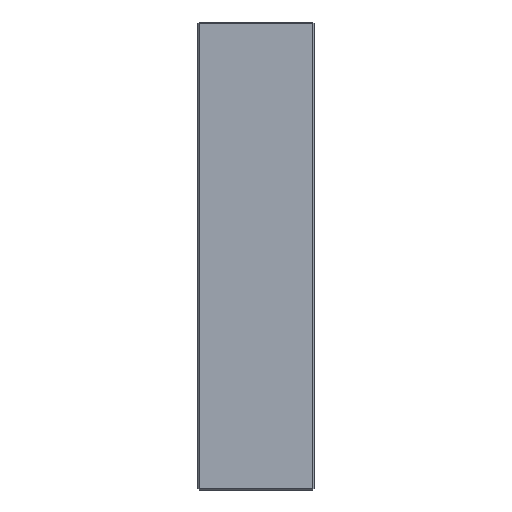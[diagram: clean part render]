
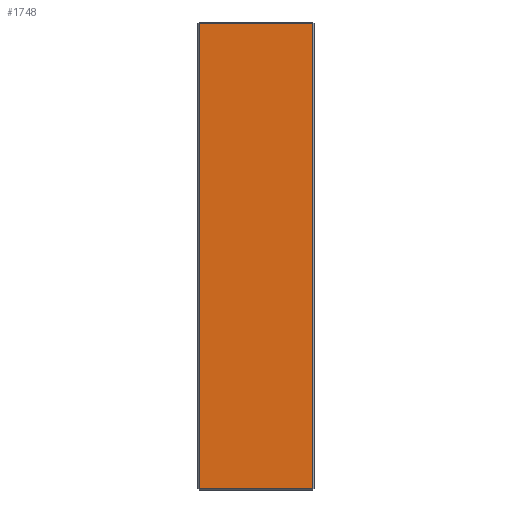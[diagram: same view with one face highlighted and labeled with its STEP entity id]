
A CAD part, left-side view. The second image highlights one B-rep face of the part: STEP entity #1748.
In plain terms, the highlighted planar face has unit normal (-1, 0, 0).
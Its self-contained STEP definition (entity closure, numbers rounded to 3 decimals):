
#29 = VECTOR ( 'NONE', #1095, 1000. ) ;
#83 = PLANE ( 'NONE',  #427 ) ;
#95 = CARTESIAN_POINT ( 'NONE',  ( -173., 86., 173. ) ) ;
#113 = DIRECTION ( 'NONE',  ( 1., 0., 0. ) ) ;
#116 = DIRECTION ( 'NONE',  ( 0., 0., -1. ) ) ;
#145 = LINE ( 'NONE', #217, #256 ) ;
#164 = ORIENTED_EDGE ( 'NONE', *, *, #448, .T. ) ;
#184 = VECTOR ( 'NONE', #965, 1000. ) ;
#217 = CARTESIAN_POINT ( 'NONE',  ( -173., 86., -172. ) ) ;
#256 = VECTOR ( 'NONE', #348, 1000. ) ;
#348 = DIRECTION ( 'NONE',  ( 0., -1., 0. ) ) ;
#364 = LINE ( 'NONE', #628, #184 ) ;
#427 = AXIS2_PLACEMENT_3D ( 'NONE', #95, #113, #116 ) ;
#430 = ORIENTED_EDGE ( 'NONE', *, *, #1557, .T. ) ;
#448 = EDGE_CURVE ( 'NONE', #806, #1682, #145, .T. ) ;
#628 = CARTESIAN_POINT ( 'NONE',  ( -173., 85., 173. ) ) ;
#678 = ORIENTED_EDGE ( 'NONE', *, *, #1694, .T. ) ;
#762 = VERTEX_POINT ( 'NONE', #1823 ) ;
#806 = VERTEX_POINT ( 'NONE', #1728 ) ;
#829 = VERTEX_POINT ( 'NONE', #1544 ) ;
#965 = DIRECTION ( 'NONE',  ( 0., 0., -1. ) ) ;
#991 = CARTESIAN_POINT ( 'NONE',  ( -173., 86., 172. ) ) ;
#997 = EDGE_LOOP ( 'NONE', ( #1907, #678, #164, #430 ) ) ;
#1000 = DIRECTION ( 'NONE',  ( 0., 0., 1. ) ) ;
#1048 = VECTOR ( 'NONE', #1000, 1000. ) ;
#1072 = LINE ( 'NONE', #1184, #1048 ) ;
#1095 = DIRECTION ( 'NONE',  ( 0., 1., 0. ) ) ;
#1184 = CARTESIAN_POINT ( 'NONE',  ( -173., 1., 173. ) ) ;
#1484 = LINE ( 'NONE', #991, #29 ) ;
#1544 = CARTESIAN_POINT ( 'NONE',  ( -173., 85., 172. ) ) ;
#1557 = EDGE_CURVE ( 'NONE', #1682, #762, #1072, .T. ) ;
#1680 = CARTESIAN_POINT ( 'NONE',  ( -173., 1., -172. ) ) ;
#1682 = VERTEX_POINT ( 'NONE', #1680 ) ;
#1694 = EDGE_CURVE ( 'NONE', #829, #806, #364, .T. ) ;
#1728 = CARTESIAN_POINT ( 'NONE',  ( -173., 85., -172. ) ) ;
#1744 = EDGE_CURVE ( 'NONE', #762, #829, #1484, .T. ) ;
#1748 = ADVANCED_FACE ( 'NONE', ( #1934 ), #83, .F. ) ;
#1823 = CARTESIAN_POINT ( 'NONE',  ( -173., 1., 172. ) ) ;
#1907 = ORIENTED_EDGE ( 'NONE', *, *, #1744, .T. ) ;
#1934 = FACE_OUTER_BOUND ( 'NONE', #997, .T. ) ;
